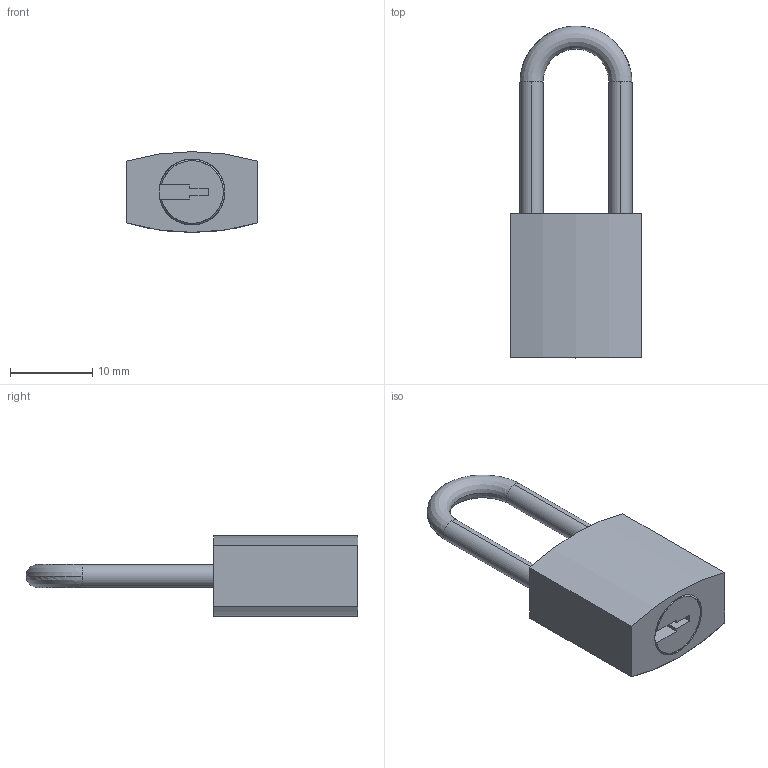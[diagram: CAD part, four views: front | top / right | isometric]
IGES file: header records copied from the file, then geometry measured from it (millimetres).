
Start section: SolidWorks IGES file using analytic representation for surfaces
Bounding box: 16 x 40.3 x 9.8 mm (x, y, z)
Surface area: 1590.2 mm2 (no closed solid volume)
Topology: 0 solids, 0 shells, 25 faces, 263 edges, 263 vertices
Faces by surface type: bspline 15, revolution 10
